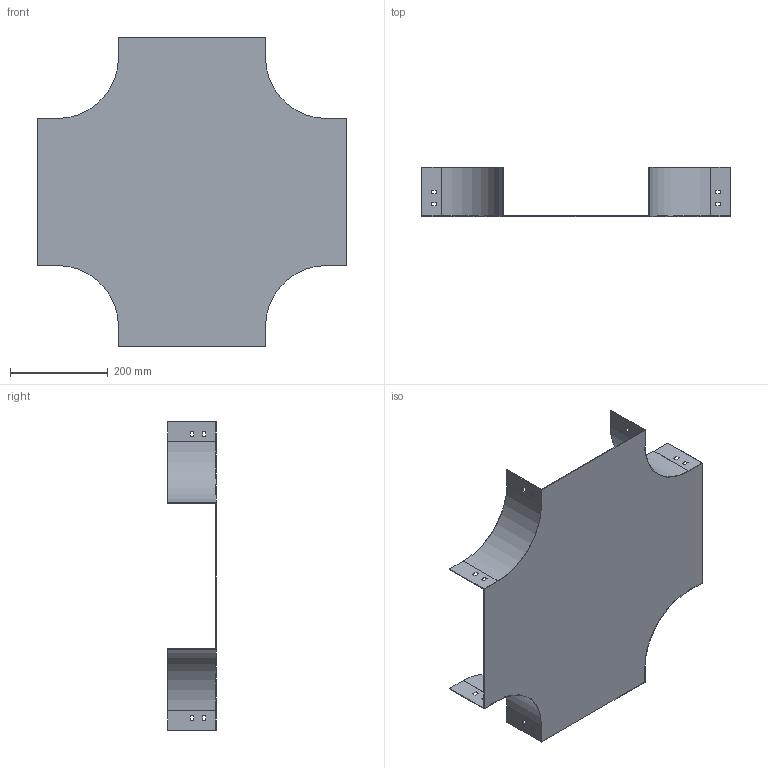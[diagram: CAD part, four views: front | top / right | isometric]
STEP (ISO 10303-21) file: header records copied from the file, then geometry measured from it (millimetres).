
FILE_DESCRIPTION (( 'STEP AP214' ), '1' );
FILE_NAME ('PC_301.step', '2025-07-16T09:22:17', ( '' ), ( '' ), 'SwSTEP 2.0', 'SolidWorks 2023', '' );
FILE_SCHEMA (( 'AUTOMOTIVE_DESIGN' ));
Length unit declared in the file: millimetre
Products named in the file (1): PC_301
Bounding box: 630 x 100 x 630 mm (x, y, z)
Volume: 614457.8 mm3; surface area: 824733.1 mm2
Topology: 1 solids, 1 shells, 98 faces, 288 edges, 192 vertices
Faces by surface type: plane 90, cylinder 8
Entity records: 3295 total; most frequent: CARTESIAN_POINT 579, ORIENTED_EDGE 576, DIRECTION 502, EDGE_CURVE 288, VECTOR 272, LINE 272, VERTEX_POINT 192, EDGE_LOOP 130
